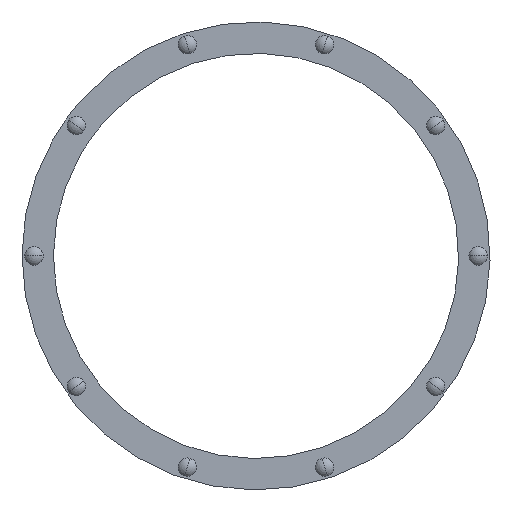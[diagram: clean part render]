
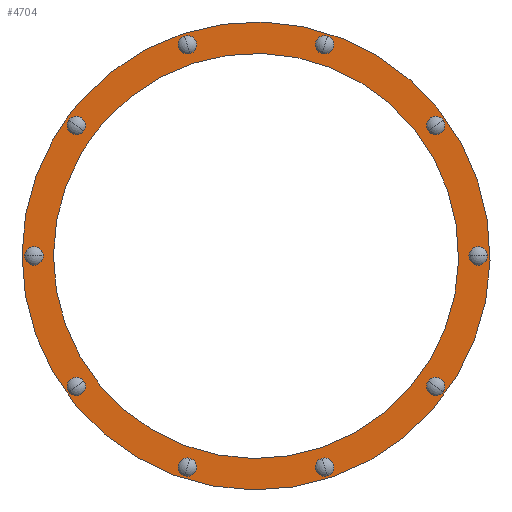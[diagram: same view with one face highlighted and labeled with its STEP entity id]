
A CAD part, front view. The second image highlights one B-rep face of the part: STEP entity #4704.
In plain terms, the highlighted planar face has unit normal (0, -1, 0).
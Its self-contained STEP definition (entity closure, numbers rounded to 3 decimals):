
#1513=CARTESIAN_POINT('',(-249.177,-92.,181.038));
#1514=DIRECTION('',(0.,1.,0.));
#1515=DIRECTION('',(-0.809,0.,0.588));
#1516=AXIS2_PLACEMENT_3D('',#1513,#1514,#1515);
#1518=CARTESIAN_POINT('',(-249.177,-92.,181.038));
#1519=DIRECTION('',(0.,1.,0.));
#1520=DIRECTION('',(0.809,0.,-0.588));
#1521=AXIS2_PLACEMENT_3D('',#1518,#1519,#1520);
#1523=CARTESIAN_POINT('',(-95.177,-92.,292.925));
#1524=DIRECTION('',(0.,1.,0.));
#1525=DIRECTION('',(-0.309,0.,0.951));
#1526=AXIS2_PLACEMENT_3D('',#1523,#1524,#1525);
#1528=CARTESIAN_POINT('',(-95.177,-92.,292.925));
#1529=DIRECTION('',(0.,1.,0.));
#1530=DIRECTION('',(0.309,0.,-0.951));
#1531=AXIS2_PLACEMENT_3D('',#1528,#1529,#1530);
#1533=CARTESIAN_POINT('',(95.177,-92.,292.925));
#1534=DIRECTION('',(0.,1.,0.));
#1535=DIRECTION('',(0.309,0.,0.951));
#1536=AXIS2_PLACEMENT_3D('',#1533,#1534,#1535);
#1538=CARTESIAN_POINT('',(95.177,-92.,292.925));
#1539=DIRECTION('',(0.,1.,0.));
#1540=DIRECTION('',(-0.309,0.,-0.951));
#1541=AXIS2_PLACEMENT_3D('',#1538,#1539,#1540);
#1543=CARTESIAN_POINT('',(249.177,-92.,181.038));
#1544=DIRECTION('',(0.,1.,0.));
#1545=DIRECTION('',(0.809,0.,0.588));
#1546=AXIS2_PLACEMENT_3D('',#1543,#1544,#1545);
#1548=CARTESIAN_POINT('',(249.177,-92.,181.038));
#1549=DIRECTION('',(0.,1.,0.));
#1550=DIRECTION('',(-0.809,0.,-0.588));
#1551=AXIS2_PLACEMENT_3D('',#1548,#1549,#1550);
#1553=CARTESIAN_POINT('',(308.,-92.,0.));
#1554=DIRECTION('',(0.,1.,0.));
#1555=DIRECTION('',(1.,0.,0.));
#1556=AXIS2_PLACEMENT_3D('',#1553,#1554,#1555);
#1558=CARTESIAN_POINT('',(308.,-92.,0.));
#1559=DIRECTION('',(0.,1.,0.));
#1560=DIRECTION('',(-1.,0.,0.));
#1561=AXIS2_PLACEMENT_3D('',#1558,#1559,#1560);
#1563=CARTESIAN_POINT('',(249.177,-92.,-181.038));
#1564=DIRECTION('',(0.,1.,0.));
#1565=DIRECTION('',(0.809,0.,-0.588));
#1566=AXIS2_PLACEMENT_3D('',#1563,#1564,#1565);
#1568=CARTESIAN_POINT('',(249.177,-92.,-181.038));
#1569=DIRECTION('',(0.,1.,0.));
#1570=DIRECTION('',(-0.809,0.,0.588));
#1571=AXIS2_PLACEMENT_3D('',#1568,#1569,#1570);
#1573=CARTESIAN_POINT('',(95.177,-92.,-292.925));
#1574=DIRECTION('',(0.,1.,0.));
#1575=DIRECTION('',(0.309,0.,-0.951));
#1576=AXIS2_PLACEMENT_3D('',#1573,#1574,#1575);
#1578=CARTESIAN_POINT('',(95.177,-92.,-292.925));
#1579=DIRECTION('',(0.,1.,0.));
#1580=DIRECTION('',(-0.309,0.,0.951));
#1581=AXIS2_PLACEMENT_3D('',#1578,#1579,#1580);
#1583=CARTESIAN_POINT('',(-95.177,-92.,-292.925));
#1584=DIRECTION('',(0.,1.,0.));
#1585=DIRECTION('',(-0.309,0.,-0.951));
#1586=AXIS2_PLACEMENT_3D('',#1583,#1584,#1585);
#1588=CARTESIAN_POINT('',(-95.177,-92.,-292.925));
#1589=DIRECTION('',(0.,1.,0.));
#1590=DIRECTION('',(0.309,0.,0.951));
#1591=AXIS2_PLACEMENT_3D('',#1588,#1589,#1590);
#1593=CARTESIAN_POINT('',(-249.177,-92.,-181.038));
#1594=DIRECTION('',(0.,1.,0.));
#1595=DIRECTION('',(-0.809,0.,-0.588));
#1596=AXIS2_PLACEMENT_3D('',#1593,#1594,#1595);
#1598=CARTESIAN_POINT('',(-249.177,-92.,-181.038));
#1599=DIRECTION('',(0.,1.,0.));
#1600=DIRECTION('',(0.809,0.,0.588));
#1601=AXIS2_PLACEMENT_3D('',#1598,#1599,#1600);
#1603=CARTESIAN_POINT('',(-308.,-92.,0.));
#1604=DIRECTION('',(0.,1.,0.));
#1605=DIRECTION('',(-1.,0.,0.));
#1606=AXIS2_PLACEMENT_3D('',#1603,#1604,#1605);
#1608=CARTESIAN_POINT('',(-308.,-92.,0.));
#1609=DIRECTION('',(0.,1.,0.));
#1610=DIRECTION('',(1.,0.,0.));
#1611=AXIS2_PLACEMENT_3D('',#1608,#1609,#1610);
#1613=CARTESIAN_POINT('',(0.,-92.,0.));
#1614=DIRECTION('',(0.,1.,0.));
#1615=DIRECTION('',(-0.743,0.,0.669));
#1616=AXIS2_PLACEMENT_3D('',#1613,#1614,#1615);
#1618=CARTESIAN_POINT('',(0.,-92.,0.));
#1619=DIRECTION('',(0.,1.,0.));
#1620=DIRECTION('',(-0.866,0.,0.5));
#1621=AXIS2_PLACEMENT_3D('',#1618,#1619,#1620);
#1631=CARTESIAN_POINT('',(0.,-92.,0.));
#1632=DIRECTION('',(0.,1.,0.));
#1633=DIRECTION('',(-0.743,0.,0.669));
#1634=AXIS2_PLACEMENT_3D('',#1631,#1632,#1633);
#1636=CARTESIAN_POINT('',(0.,-92.,0.));
#1637=DIRECTION('',(0.,1.,0.));
#1638=DIRECTION('',(-0.866,0.,0.5));
#1639=AXIS2_PLACEMENT_3D('',#1636,#1637,#1638);
#3380=CARTESIAN_POINT('',(-320.75,-92.,0.));
#3381=CARTESIAN_POINT('',(-295.25,-92.,0.));
#3382=VERTEX_POINT('',#3380);
#3383=VERTEX_POINT('',#3381);
#3438=CARTESIAN_POINT('',(-259.492,-92.,-188.532));
#3439=CARTESIAN_POINT('',(-238.862,-92.,-173.544));
#3440=VERTEX_POINT('',#3438);
#3441=VERTEX_POINT('',#3439);
#3496=CARTESIAN_POINT('',(-99.117,-92.,-305.051));
#3497=CARTESIAN_POINT('',(-91.237,-92.,-280.799));
#3498=VERTEX_POINT('',#3496);
#3499=VERTEX_POINT('',#3497);
#3554=CARTESIAN_POINT('',(99.117,-92.,-305.051));
#3555=CARTESIAN_POINT('',(91.237,-92.,-280.799));
#3556=VERTEX_POINT('',#3554);
#3557=VERTEX_POINT('',#3555);
#3612=CARTESIAN_POINT('',(259.492,-92.,-188.532));
#3613=CARTESIAN_POINT('',(238.862,-92.,-173.544));
#3614=VERTEX_POINT('',#3612);
#3615=VERTEX_POINT('',#3613);
#3670=CARTESIAN_POINT('',(320.75,-92.,0.));
#3671=CARTESIAN_POINT('',(295.25,-92.,0.));
#3672=VERTEX_POINT('',#3670);
#3673=VERTEX_POINT('',#3671);
#3728=CARTESIAN_POINT('',(259.492,-92.,188.532));
#3729=CARTESIAN_POINT('',(238.862,-92.,173.544));
#3730=VERTEX_POINT('',#3728);
#3731=VERTEX_POINT('',#3729);
#3786=CARTESIAN_POINT('',(99.117,-92.,305.051));
#3787=CARTESIAN_POINT('',(91.237,-92.,280.799));
#3788=VERTEX_POINT('',#3786);
#3789=VERTEX_POINT('',#3787);
#3844=CARTESIAN_POINT('',(-99.117,-92.,305.051));
#3845=CARTESIAN_POINT('',(-91.237,-92.,280.799));
#3846=VERTEX_POINT('',#3844);
#3847=VERTEX_POINT('',#3845);
#3902=CARTESIAN_POINT('',(-259.492,-92.,188.532));
#3903=CARTESIAN_POINT('',(-238.862,-92.,173.544));
#3904=VERTEX_POINT('',#3902);
#3905=VERTEX_POINT('',#3903);
#3918=CARTESIAN_POINT('',(-281.112,-92.,162.3));
#3919=VERTEX_POINT('',#3918);
#3920=CARTESIAN_POINT('',(-243.353,-92.,140.5));
#3922=VERTEX_POINT('',#3920);
#3946=CARTESIAN_POINT('',(-241.225,-92.,217.2));
#3947=VERTEX_POINT('',#3946);
#3948=CARTESIAN_POINT('',(-208.824,-92.,188.026));
#3950=VERTEX_POINT('',#3948);
#4629=CARTESIAN_POINT('',(0.,-92.,0.));
#4630=DIRECTION('',(0.,1.,0.));
#4631=DIRECTION('',(0.866,0.,0.5));
#4632=AXIS2_PLACEMENT_3D('',#4629,#4630,#4631);
#4633=PLANE('',#4632);
#4634=ORIENTED_EDGE('',*,*,#4608,.T.);
#4635=ORIENTED_EDGE('',*,*,#4624,.T.);
#4636=EDGE_LOOP('',(#4634,#4635));
#4637=FACE_OUTER_BOUND('',#4636,.F.);
#4639=ORIENTED_EDGE('',*,*,#4638,.F.);
#4641=ORIENTED_EDGE('',*,*,#4640,.F.);
#4642=EDGE_LOOP('',(#4639,#4641));
#4643=FACE_BOUND('',#4642,.F.);
#4645=ORIENTED_EDGE('',*,*,#4644,.F.);
#4647=ORIENTED_EDGE('',*,*,#4646,.F.);
#4648=EDGE_LOOP('',(#4645,#4647));
#4649=FACE_BOUND('',#4648,.F.);
#4651=ORIENTED_EDGE('',*,*,#4650,.F.);
#4653=ORIENTED_EDGE('',*,*,#4652,.F.);
#4654=EDGE_LOOP('',(#4651,#4653));
#4655=FACE_BOUND('',#4654,.F.);
#4657=ORIENTED_EDGE('',*,*,#4656,.F.);
#4659=ORIENTED_EDGE('',*,*,#4658,.F.);
#4660=EDGE_LOOP('',(#4657,#4659));
#4661=FACE_BOUND('',#4660,.F.);
#4663=ORIENTED_EDGE('',*,*,#4662,.F.);
#4665=ORIENTED_EDGE('',*,*,#4664,.F.);
#4666=EDGE_LOOP('',(#4663,#4665));
#4667=FACE_BOUND('',#4666,.F.);
#4669=ORIENTED_EDGE('',*,*,#4668,.F.);
#4671=ORIENTED_EDGE('',*,*,#4670,.F.);
#4672=EDGE_LOOP('',(#4669,#4671));
#4673=FACE_BOUND('',#4672,.F.);
#4675=ORIENTED_EDGE('',*,*,#4674,.F.);
#4677=ORIENTED_EDGE('',*,*,#4676,.F.);
#4678=EDGE_LOOP('',(#4675,#4677));
#4679=FACE_BOUND('',#4678,.F.);
#4681=ORIENTED_EDGE('',*,*,#4680,.F.);
#4683=ORIENTED_EDGE('',*,*,#4682,.F.);
#4684=EDGE_LOOP('',(#4681,#4683));
#4685=FACE_BOUND('',#4684,.F.);
#4687=ORIENTED_EDGE('',*,*,#4686,.F.);
#4689=ORIENTED_EDGE('',*,*,#4688,.F.);
#4690=EDGE_LOOP('',(#4687,#4689));
#4691=FACE_BOUND('',#4690,.F.);
#4693=ORIENTED_EDGE('',*,*,#4692,.F.);
#4695=ORIENTED_EDGE('',*,*,#4694,.F.);
#4696=EDGE_LOOP('',(#4693,#4695));
#4697=FACE_BOUND('',#4696,.F.);
#4699=ORIENTED_EDGE('',*,*,#4698,.F.);
#4701=ORIENTED_EDGE('',*,*,#4700,.F.);
#4702=EDGE_LOOP('',(#4699,#4701));
#4703=FACE_BOUND('',#4702,.F.);
#4704=ADVANCED_FACE('',(#4637,#4643,#4649,#4655,#4661,#4667,#4673,#4679,#4685,
#4691,#4697,#4703),#4633,.F.);
#1517=CIRCLE('',#1516,12.75);
#1522=CIRCLE('',#1521,12.75);
#1527=CIRCLE('',#1526,12.75);
#1532=CIRCLE('',#1531,12.75);
#1537=CIRCLE('',#1536,12.75);
#1542=CIRCLE('',#1541,12.75);
#1547=CIRCLE('',#1546,12.75);
#1552=CIRCLE('',#1551,12.75);
#1557=CIRCLE('',#1556,12.75);
#1562=CIRCLE('',#1561,12.75);
#1567=CIRCLE('',#1566,12.75);
#1572=CIRCLE('',#1571,12.75);
#1577=CIRCLE('',#1576,12.75);
#1582=CIRCLE('',#1581,12.75);
#1587=CIRCLE('',#1586,12.75);
#1592=CIRCLE('',#1591,12.75);
#1597=CIRCLE('',#1596,12.75);
#1602=CIRCLE('',#1601,12.75);
#1607=CIRCLE('',#1606,12.75);
#1612=CIRCLE('',#1611,12.75);
#1617=CIRCLE('',#1616,324.6);
#1622=CIRCLE('',#1621,324.6);
#1635=CIRCLE('',#1634,281.);
#1640=CIRCLE('',#1639,281.);
#4608=EDGE_CURVE('',#3947,#3919,#1617,.T.);
#4624=EDGE_CURVE('',#3919,#3947,#1622,.T.);
#4638=EDGE_CURVE('',#3904,#3905,#1517,.T.);
#4640=EDGE_CURVE('',#3905,#3904,#1522,.T.);
#4644=EDGE_CURVE('',#3846,#3847,#1527,.T.);
#4646=EDGE_CURVE('',#3847,#3846,#1532,.T.);
#4650=EDGE_CURVE('',#3788,#3789,#1537,.T.);
#4652=EDGE_CURVE('',#3789,#3788,#1542,.T.);
#4656=EDGE_CURVE('',#3730,#3731,#1547,.T.);
#4658=EDGE_CURVE('',#3731,#3730,#1552,.T.);
#4662=EDGE_CURVE('',#3672,#3673,#1557,.T.);
#4664=EDGE_CURVE('',#3673,#3672,#1562,.T.);
#4668=EDGE_CURVE('',#3614,#3615,#1567,.T.);
#4670=EDGE_CURVE('',#3615,#3614,#1572,.T.);
#4674=EDGE_CURVE('',#3556,#3557,#1577,.T.);
#4676=EDGE_CURVE('',#3557,#3556,#1582,.T.);
#4680=EDGE_CURVE('',#3498,#3499,#1587,.T.);
#4682=EDGE_CURVE('',#3499,#3498,#1592,.T.);
#4686=EDGE_CURVE('',#3440,#3441,#1597,.T.);
#4688=EDGE_CURVE('',#3441,#3440,#1602,.T.);
#4692=EDGE_CURVE('',#3382,#3383,#1607,.T.);
#4694=EDGE_CURVE('',#3383,#3382,#1612,.T.);
#4698=EDGE_CURVE('',#3950,#3922,#1635,.T.);
#4700=EDGE_CURVE('',#3922,#3950,#1640,.T.);
